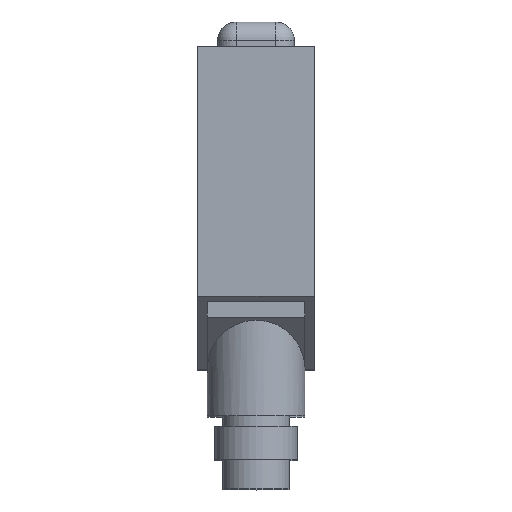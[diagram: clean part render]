
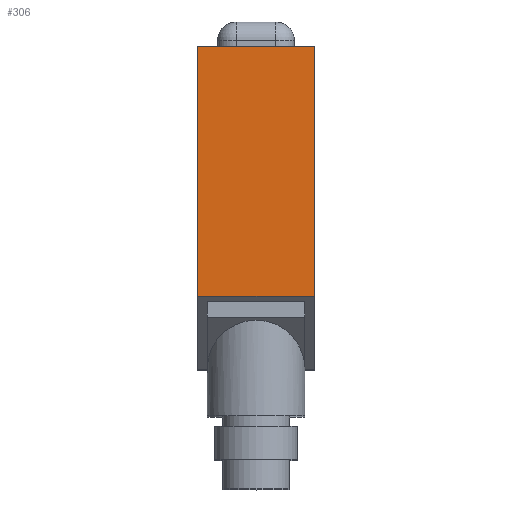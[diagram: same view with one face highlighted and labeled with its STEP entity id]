
A CAD part, top view. The second image highlights one B-rep face of the part: STEP entity #306.
In plain terms, the highlighted planar face has unit normal (0, 0, 1) as drawn and (1, 0, 0) by its records, which use the part's own axes.
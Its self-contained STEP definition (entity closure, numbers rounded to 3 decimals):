
#306 = ADVANCED_FACE ( 'NONE', ( #1692 ), #1691, .F. ) ;
#307 = EDGE_LOOP ( 'NONE', ( #308, #309, #342, #345 ) ) ;
#308 = ORIENTED_EDGE ( 'NONE', *, *, #3670, .T. ) ;
#309 = ORIENTED_EDGE ( 'NONE', *, *, #310, .T. ) ;
#310 = EDGE_CURVE ( 'NONE', #3658, #311, #1686, .T. ) ;
#311 = VERTEX_POINT ( 'NONE', #1682 ) ;
#342 = ORIENTED_EDGE ( 'NONE', *, *, #343, .F. ) ;
#343 = EDGE_CURVE ( 'NONE', #344, #311, #1772, .T. ) ;
#344 = VERTEX_POINT ( 'NONE', #1768 ) ;
#345 = ORIENTED_EDGE ( 'NONE', *, *, #346, .F. ) ;
#346 = EDGE_CURVE ( 'NONE', #3673, #344, #1767, .T. ) ;
#1682 = CARTESIAN_POINT ( 'NONE',  ( 20., 0., -5.6 ) ) ;
#1683 = DIRECTION ( 'NONE',  ( 0., 1., 0. ) ) ;
#1684 = VECTOR ( 'NONE', #1683, 1000. ) ;
#1685 = CARTESIAN_POINT ( 'NONE',  ( 20., 0., -5.6 ) ) ;
#1686 = LINE ( 'NONE', #1685, #1684 ) ;
#1687 = DIRECTION ( 'NONE',  ( 0., -1., 0. ) ) ;
#1688 = DIRECTION ( 'NONE',  ( -1., 0., 0. ) ) ;
#1689 = CARTESIAN_POINT ( 'NONE',  ( 20., 0., 5.6 ) ) ;
#1690 = AXIS2_PLACEMENT_3D ( 'NONE', #1689, #1688, #1687 ) ;
#1691 = PLANE ( 'NONE',  #1690 ) ;
#1692 = FACE_OUTER_BOUND ( 'NONE', #307, .T. ) ;
#1764 = DIRECTION ( 'NONE',  ( 0., 1., 0. ) ) ;
#1765 = VECTOR ( 'NONE', #1764, 1000. ) ;
#1766 = CARTESIAN_POINT ( 'NONE',  ( 20., 0., 5.6 ) ) ;
#1767 = LINE ( 'NONE', #1766, #1765 ) ;
#1768 = CARTESIAN_POINT ( 'NONE',  ( 20., 0., 5.6 ) ) ;
#1769 = DIRECTION ( 'NONE',  ( 0., 0., -1. ) ) ;
#1770 = VECTOR ( 'NONE', #1769, 1000. ) ;
#1771 = CARTESIAN_POINT ( 'NONE',  ( 20., 0., 5.6 ) ) ;
#1772 = LINE ( 'NONE', #1771, #1770 ) ;
#3261 = CARTESIAN_POINT ( 'NONE',  ( 20., -24., -5.6 ) ) ;
#3297 = CARTESIAN_POINT ( 'NONE',  ( 20., -24., 5.6 ) ) ;
#3302 = DIRECTION ( 'NONE',  ( 0., 0., -1. ) ) ;
#3303 = VECTOR ( 'NONE', #3302, 1000. ) ;
#3304 = CARTESIAN_POINT ( 'NONE',  ( 20., -24., 55.193 ) ) ;
#3305 = LINE ( 'NONE', #3304, #3303 ) ;
#3658 = VERTEX_POINT ( 'NONE', #3261 ) ;
#3670 = EDGE_CURVE ( 'NONE', #3673, #3658, #3305, .T. ) ;
#3673 = VERTEX_POINT ( 'NONE', #3297 ) ;
